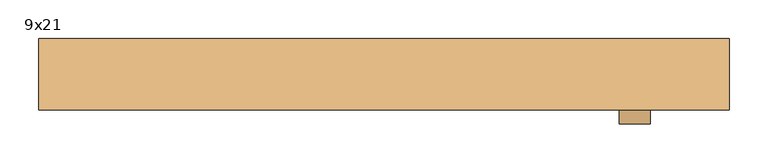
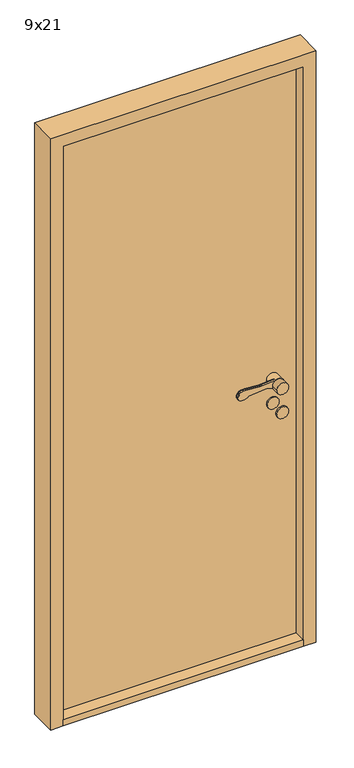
"""IFC4 building model written with IfcOpenShell, lengths in millimetres: door geometry, Innerdør stål branndørA60 : 9x21."""

from ifc_helpers import new_model, si_unit, point, frame, frame_2d, origin, origin_with_axes, place, context, project, spatial, polyline, circle_curve, trimmed, segment, composite_curve, outline, extrude, source, transform, mapped, element, save
from ifc_brep_helpers import plane_surface, cylinder_surface, revolved_surface, advanced_brep


def door_9x21_cb854033(model_context):
    return source(origin(), model_context, "Body", "SolidModel", [
        advanced_brep(
        [(343.9611305, 90.0, 949.1175955), (358.3841161, 90.0, 942.6204086), (396.379633, 90.0, 951.3474568), (367.2687793, 90.0, 969.1517356), (318.6891233, 90.0, 964.26032), (313.6202158, 90.0, 964.1804415), (268.8963175, 90.0, 967.2639242), (250.3175669, 90.0, 964.8810513), (245.505009, 90.0, 959.9624074), (241.8691983, 90.0, 951.8913379), (246.721536, 90.0, 938.7393398), (276.0476109, 90.0, 943.6260011), (338.8520664, 90.0, 949.9496913), (318.6891233, 97.1084716, 964.26032), (367.2687793, 97.1084716, 969.1517356), (356.379633, 97.1084716, 951.3474568), (358.3841161, 97.1084716, 942.6204086), (343.9611305, 97.1084716, 949.1175955), (338.8520664, 97.1084716, 949.9496913), (276.0476109, 97.1084716, 943.6260011), (246.721536, 97.1084716, 938.7393398), (241.8691983, 97.1084716, 951.8913379), (245.505009, 97.1084716, 959.9624074), (250.3175669, 97.1084716, 964.8810513), (268.8963175, 97.1084716, 967.2639242), (313.6202158, 97.1084716, 964.1804415), (396.379633, 125.0, 951.3474568), (356.379633, 125.0, 951.3474568)],
        [
            (0, 1),
            (1, 2, circle_curve(frame((376.379633, 90.0, 951.3474568), z_axis=(0.0, -1.0, 0.0), x_axis=(-1.0, 0.0, 0.0)), 20.0)),
            (2, 3, circle_curve(frame((376.379633, 90.0, 951.3474568), z_axis=(0.0, -1.0, 0.0), x_axis=(-1.0, 0.0, 0.0)), 20.0)),
            (3, 4),
            (4, 5, circle_curve(frame((315.683663, 90.0, 994.1093938), z_axis=(0.0, 1.0, 0.0), x_axis=(-0.9949691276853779, 0.0, -0.10018200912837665)), 30.0)),
            (5, 6),
            (6, 7, circle_curve(frame((263.2326797, 90.0, 937.8033877), z_axis=(0.0, -1.0, 0.0), x_axis=(-0.9949691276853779, 0.0, -0.10018200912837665)), 30.0)),
            (7, 8, circle_curve(frame((254.6226045, 90.0, 955.8551634), z_axis=(0.0, -1.0, 0.0), x_axis=(-0.9949691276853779, 0.0, -0.10018200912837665)), 10.0)),
            (8, 9),
            (9, 10, circle_curve(frame((250.9867937, 90.0, 947.7840939), z_axis=(0.0, -1.0, 0.0), x_axis=(-0.9949691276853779, 0.0, -0.10018200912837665)), 10.0)),
            (10, 11, circle_curve(frame((257.8569644, 90.0, 962.352734), z_axis=(0.0, -1.0, 0.0), x_axis=(-0.9949691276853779, 0.0, -0.10018200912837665)), 26.1072815)),
            (11, 12),
            (12, 0, circle_curve(frame((339.8538865, 90.0, 940.0), z_axis=(0.0, 1.0, 0.0), x_axis=(-0.9949691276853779, 0.0, -0.10018200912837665)), 10.0)),
            (13, 14),
            (14, 15, circle_curve(frame((376.379633, 97.1084716, 951.3474568), z_axis=(0.0, -1.0, 0.0), x_axis=(-1.0, 0.0, 0.0)), 20.0)),
            (15, 16, circle_curve(frame((376.379633, 97.1084716, 951.3474568), z_axis=(0.0, -1.0, 0.0), x_axis=(-1.0, 0.0, 0.0)), 20.0)),
            (16, 17),
            (17, 18, circle_curve(frame((339.8538865, 97.1084716, 940.0), z_axis=(0.0, -1.0, 0.0), x_axis=(-0.9949691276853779, 0.0, -0.10018200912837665)), 10.0)),
            (18, 19),
            (19, 20, circle_curve(frame((257.8569644, 97.1084716, 962.352734), z_axis=(0.0, 1.0, 0.0), x_axis=(-0.9949691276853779, 0.0, -0.10018200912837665)), 26.1072815)),
            (20, 21, circle_curve(frame((250.9867937, 97.1084716, 947.7840939), z_axis=(0.0, 1.0, 0.0), x_axis=(-0.9949691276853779, 0.0, -0.10018200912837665)), 10.0)),
            (21, 22),
            (22, 23, circle_curve(frame((254.6226045, 97.1084716, 955.8551634), z_axis=(0.0, 1.0, 0.0), x_axis=(-0.9949691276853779, 0.0, -0.10018200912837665)), 10.0)),
            (23, 24, circle_curve(frame((263.2326797, 97.1084716, 937.8033877), z_axis=(0.0, 1.0, 0.0), x_axis=(-0.9949691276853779, 0.0, -0.10018200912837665)), 30.0)),
            (24, 25),
            (25, 13, circle_curve(frame((315.683663, 97.1084716, 994.1093938), z_axis=(0.0, -1.0, 0.0), x_axis=(-0.9949691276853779, 0.0, -0.10018200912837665)), 30.0)),
            (3, 14),
            (13, 4),
            (16, 1),
            (0, 17),
            (12, 18),
            (11, 19),
            (10, 20),
            (9, 21),
            (8, 22),
            (7, 23),
            (6, 24),
            (5, 25),
            (26, 27, circle_curve(frame((376.379633, 125.0, 951.3474568), z_axis=(0.0, 1.0, 0.0), x_axis=(-1.0, 0.0, 0.0)), 20.0)),
            (27, 26, circle_curve(frame((376.379633, 125.0, 951.3474568), z_axis=(0.0, 1.0, 0.0), x_axis=(-1.0, 0.0, 0.0)), 20.0)),
            (26, 2),
            (15, 27),
        ],
        [
            plane_surface(frame((367.6960588, 90.0, 969.1947577), z_axis=(0.0, -1.0000000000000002, 0.0), x_axis=(0.9949691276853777, 0.0, 0.10018200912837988))),
            plane_surface(frame((367.6960588, 97.1084716, 969.1947577), z_axis=(0.0, 1.0000000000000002, 0.0), x_axis=(-0.9949691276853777, 0.0, -0.10018200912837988))),
            plane_surface(frame((318.6891233, 90.0, 964.26032), z_axis=(-0.10018200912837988, 0.0, 0.9949691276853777), x_axis=(0.0, 1.0, 0.0))),
            plane_surface(frame((376.9687366, 90.0, 934.2485115), z_axis=(-0.41072439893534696, 0.0, -0.91175954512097), x_axis=(0.0, 1.0, 0.0))),
            revolved_surface(polyline([(329.9041952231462, 97.1084716, 938.9981799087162), (329.9041952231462, 90.0, 938.9981799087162)]), (339.8538865, 97.1084716, 940.0), (0.0, 1.0, 0.0)),
            plane_surface(frame((338.8520664, 90.0, 949.9496913), z_axis=(0.10018200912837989, 0.0, -0.9949691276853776), x_axis=(0.0, 1.0, 0.0))),
            cylinder_surface(frame((257.8569644, 97.1084716, 962.352734), z_axis=(0.0, -1.0, 0.0), x_axis=(-0.9949691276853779, 0.0, -0.10018200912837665)), 26.1072815),
            cylinder_surface(frame((250.9867937, 97.1084716, 947.7840939), z_axis=(0.0, -1.0, 0.0), x_axis=(-0.9949691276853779, 0.0, -0.10018200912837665)), 10.0),
            plane_surface(frame((241.8691983, 90.0, 951.8913379), z_axis=(-0.9117595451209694, 0.0, 0.41072439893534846), x_axis=(0.0, 1.0, 0.0))),
            cylinder_surface(frame((254.6226045, 97.1084716, 955.8551634), z_axis=(0.0, -1.0, 0.0), x_axis=(-0.9949691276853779, 0.0, -0.10018200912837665)), 10.0),
            cylinder_surface(frame((263.2326797, 97.1084716, 937.8033877), z_axis=(0.0, -1.0, 0.0), x_axis=(-0.9949691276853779, 0.0, -0.10018200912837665)), 30.0),
            plane_surface(frame((268.8963175, 90.0, 967.2639242), z_axis=(0.06878157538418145, 0.0, 0.9976317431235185), x_axis=(0.0, 1.0, 0.0))),
            revolved_surface(polyline([(285.8345891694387, 97.1084716, 991.1039335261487), (285.8345891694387, 90.0, 991.1039335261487)]), (315.683663, 97.1084716, 994.1093938), (0.0, 1.0, 0.0)),
            plane_surface(frame((356.379633, 125.0, 951.3474568), z_axis=(0.0, 1.0, 0.0), x_axis=(0.0, 0.0, -1.0))),
            cylinder_surface(frame((376.379633, 125.0, 951.3474568), z_axis=(0.0, -1.0, 0.0), x_axis=(-1.0, 0.0, 0.0)), 20.0),
        ],
        [
            (0, [[1, 2, 3, 4, 5, 6, 7, 8, 9, 10, 11, 12, 13]]),
            (1, [[14, 15, 16, 17, 18, 19, 20, 21, 22, 23, 24, 25, 26]]),
            (2, [[-4, 27, -14, 28]]),
            (3, [[-17, 29, -1, 30]]),
            (4, [[31, -18, -30, -13]]),
            (5, [[32, -19, -31, -12]]),
            (6, [[33, -20, -32, -11]]),
            (7, [[34, -21, -33, -10]]),
            (8, [[35, -22, -34, -9]]),
            (9, [[36, -23, -35, -8]]),
            (10, [[37, -24, -36, -7]]),
            (11, [[38, -25, -37, -6]]),
            (12, [[-28, -26, -38, -5]]),
            (13, [[39, 40]]),
            (14, [[41, -2, -29, -16, 42, -39]]),
            (14, [[-42, -15, -27, -3, -41, -40]]),
        ],
    ),
        extrude(outline(composite_curve([segment(trimmed(circle_curve(frame_2d((866.3474568, 376.379633)), 20.0), [point((866.3474568, 396.379633))], [point((866.3474568, 356.379633))], False, "CARTESIAN"), True, "CONTINUOUS"), segment(trimmed(circle_curve(frame_2d((866.3474568, 376.379633)), 20.0), [point((866.3474568, 356.379633))], [point((866.3474568, 396.379633))], False, "CARTESIAN"), True, "CONTINUOUS")], self_intersect=False)), frame((0.0, 120.0, 0.0), z_axis=(0.0, 1.0, 0.0), x_axis=(0.0, 0.0, 1.0)), (0.0, 0.0, 1.0), 5.0),
        advanced_brep(
        [(343.9611305, 100.0, 949.1175955), (338.8520664, 100.0, 949.9496913), (276.0476109, 100.0, 943.6260011), (246.721536, 100.0, 938.7393398), (241.8691983, 100.0, 951.8913379), (245.505009, 100.0, 959.9624074), (250.3175669, 100.0, 964.8810513), (268.8963175, 100.0, 967.2639242), (313.6202158, 100.0, 964.1804415), (318.6891233, 100.0, 964.26032), (367.2687793, 100.0, 969.1517356), (396.379633, 100.0, 951.3474568), (358.3841161, 100.0, 942.6204086), (318.6891233, 92.8915284, 964.26032), (313.6202158, 92.8915284, 964.1804415), (268.8963175, 92.8915284, 967.2639242), (250.3175669, 92.8915284, 964.8810513), (245.505009, 92.8915284, 959.9624074), (241.8691983, 92.8915284, 951.8913379), (246.721536, 92.8915284, 938.7393398), (276.0476109, 92.8915284, 943.6260011), (338.8520664, 92.8915284, 949.9496913), (343.9611305, 92.8915284, 949.1175955), (358.3841161, 92.8915284, 942.6204086), (356.379633, 92.8915284, 951.3474568), (367.2687793, 92.8915284, 969.1517356), (396.379633, 65.0, 951.3474568), (356.379633, 65.0, 951.3474568)],
        [
            (0, 1, circle_curve(frame((339.8538865, 100.0, 940.0), z_axis=(0.0, -1.0, 0.0), x_axis=(-0.9949691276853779, 0.0, -0.10018200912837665)), 10.0)),
            (1, 2),
            (2, 3, circle_curve(frame((257.8569644, 100.0, 962.352734), z_axis=(0.0, 1.0, 0.0), x_axis=(-0.9949691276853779, 0.0, -0.10018200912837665)), 26.1072815)),
            (3, 4, circle_curve(frame((250.9867937, 100.0, 947.7840939), z_axis=(0.0, 1.0, 0.0), x_axis=(-0.9949691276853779, 0.0, -0.10018200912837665)), 10.0)),
            (4, 5),
            (5, 6, circle_curve(frame((254.6226045, 100.0, 955.8551634), z_axis=(0.0, 1.0, 0.0), x_axis=(-0.9949691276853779, 0.0, -0.10018200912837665)), 10.0)),
            (6, 7, circle_curve(frame((263.2326797, 100.0, 937.8033877), z_axis=(0.0, 1.0, 0.0), x_axis=(-0.9949691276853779, 0.0, -0.10018200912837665)), 30.0)),
            (7, 8),
            (8, 9, circle_curve(frame((315.683663, 100.0, 994.1093938), z_axis=(0.0, -1.0, 0.0), x_axis=(-0.9949691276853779, 0.0, -0.10018200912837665)), 30.0)),
            (9, 10),
            (10, 11, circle_curve(frame((376.379633, 100.0, 951.3474568), z_axis=(0.0, 1.0, 0.0), x_axis=(-1.0, 0.0, 0.0)), 20.0)),
            (11, 12, circle_curve(frame((376.379633, 100.0, 951.3474568), z_axis=(0.0, 1.0, 0.0), x_axis=(-1.0, 0.0, 0.0)), 20.0)),
            (12, 0),
            (13, 14, circle_curve(frame((315.683663, 92.8915284, 994.1093938), z_axis=(0.0, 1.0, 0.0), x_axis=(-0.9949691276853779, 0.0, -0.10018200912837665)), 30.0)),
            (14, 15),
            (15, 16, circle_curve(frame((263.2326797, 92.8915284, 937.8033877), z_axis=(0.0, -1.0, 0.0), x_axis=(-0.9949691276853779, 0.0, -0.10018200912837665)), 30.0)),
            (16, 17, circle_curve(frame((254.6226045, 92.8915284, 955.8551634), z_axis=(0.0, -1.0, 0.0), x_axis=(-0.9949691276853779, 0.0, -0.10018200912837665)), 10.0)),
            (17, 18),
            (18, 19, circle_curve(frame((250.9867937, 92.8915284, 947.7840939), z_axis=(0.0, -1.0, 0.0), x_axis=(-0.9949691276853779, 0.0, -0.10018200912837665)), 10.0)),
            (19, 20, circle_curve(frame((257.8569644, 92.8915284, 962.352734), z_axis=(0.0, -1.0, 0.0), x_axis=(-0.9949691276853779, 0.0, -0.10018200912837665)), 26.1072815)),
            (20, 21),
            (21, 22, circle_curve(frame((339.8538865, 92.8915284, 940.0), z_axis=(0.0, 1.0, 0.0), x_axis=(-0.9949691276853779, 0.0, -0.10018200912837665)), 10.0)),
            (22, 23),
            (23, 24, circle_curve(frame((376.379633, 92.8915284, 951.3474568), z_axis=(0.0, 1.0, 0.0), x_axis=(-1.0, 0.0, 0.0)), 20.0)),
            (24, 25, circle_curve(frame((376.379633, 92.8915284, 951.3474568), z_axis=(0.0, 1.0, 0.0), x_axis=(-1.0, 0.0, 0.0)), 20.0)),
            (25, 13),
            (9, 13),
            (25, 10),
            (22, 0),
            (12, 23),
            (21, 1),
            (20, 2),
            (19, 3),
            (18, 4),
            (17, 5),
            (16, 6),
            (15, 7),
            (14, 8),
            (26, 27, circle_curve(frame((376.379633, 65.0, 951.3474568), z_axis=(0.0, -1.0, 0.0), x_axis=(-1.0, 0.0, 0.0)), 20.0)),
            (27, 26, circle_curve(frame((376.379633, 65.0, 951.3474568), z_axis=(0.0, -1.0, 0.0), x_axis=(-1.0, 0.0, 0.0)), 20.0)),
            (27, 24),
            (11, 26),
        ],
        [
            plane_surface(frame((367.6960588, 100.0, 969.1947577), z_axis=(0.0, 1.0000000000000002, 0.0), x_axis=(0.9949691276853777, 0.0, 0.10018200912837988))),
            plane_surface(frame((367.6960588, 92.8915284, 969.1947577), z_axis=(0.0, -1.0000000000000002, 0.0), x_axis=(-0.9949691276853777, 0.0, -0.10018200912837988))),
            plane_surface(frame((318.6891233, 100.0, 964.26032), z_axis=(-0.10018200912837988, 0.0, 0.9949691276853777), x_axis=(0.0, -1.0, 0.0))),
            plane_surface(frame((376.9687366, 100.0, 934.2485115), z_axis=(-0.41072439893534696, 0.0, -0.91175954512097), x_axis=(0.0, -1.0, 0.0))),
            revolved_surface(polyline([(329.9041952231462, 92.8915284, 938.9981799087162), (329.9041952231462, 100.0, 938.9981799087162)]), (339.8538865, 92.8915284, 940.0), (0.0, -1.0, 0.0)),
            plane_surface(frame((338.8520664, 100.0, 949.9496913), z_axis=(0.10018200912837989, 0.0, -0.9949691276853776), x_axis=(0.0, -1.0, 0.0))),
            cylinder_surface(frame((257.8569644, 92.8915284, 962.352734), z_axis=(0.0, 1.0, 0.0), x_axis=(-0.9949691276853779, 0.0, -0.10018200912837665)), 26.1072815),
            cylinder_surface(frame((250.9867937, 92.8915284, 947.7840939), z_axis=(0.0, 1.0, 0.0), x_axis=(-0.9949691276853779, 0.0, -0.10018200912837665)), 10.0),
            plane_surface(frame((241.8691983, 100.0, 951.8913379), z_axis=(-0.9117595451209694, 0.0, 0.41072439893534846), x_axis=(0.0, -1.0, 0.0))),
            cylinder_surface(frame((254.6226045, 92.8915284, 955.8551634), z_axis=(0.0, 1.0, 0.0), x_axis=(-0.9949691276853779, 0.0, -0.10018200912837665)), 10.0),
            cylinder_surface(frame((263.2326797, 92.8915284, 937.8033877), z_axis=(0.0, 1.0, 0.0), x_axis=(-0.9949691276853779, 0.0, -0.10018200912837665)), 30.0),
            plane_surface(frame((268.8963175, 100.0, 967.2639242), z_axis=(0.06878157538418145, 0.0, 0.9976317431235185), x_axis=(0.0, -1.0, 0.0))),
            revolved_surface(polyline([(285.8345891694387, 92.8915284, 991.1039335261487), (285.8345891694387, 100.0, 991.1039335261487)]), (315.683663, 92.8915284, 994.1093938), (0.0, -1.0, 0.0)),
            plane_surface(frame((356.379633, 65.0, 951.3474568), z_axis=(0.0, -1.0, 0.0), x_axis=(0.0, 0.0, -1.0))),
            cylinder_surface(frame((376.379633, 65.0, 951.3474568), z_axis=(0.0, 1.0, 0.0), x_axis=(-1.0, 0.0, 0.0)), 20.0),
        ],
        [
            (0, [[1, 2, 3, 4, 5, 6, 7, 8, 9, 10, 11, 12, 13]]),
            (1, [[14, 15, 16, 17, 18, 19, 20, 21, 22, 23, 24, 25, 26]]),
            (2, [[27, -26, 28, -10]]),
            (3, [[29, -13, 30, -23]]),
            (4, [[-1, -29, -22, 31]]),
            (5, [[-2, -31, -21, 32]]),
            (6, [[-3, -32, -20, 33]]),
            (7, [[-4, -33, -19, 34]]),
            (8, [[-5, -34, -18, 35]]),
            (9, [[-6, -35, -17, 36]]),
            (10, [[-7, -36, -16, 37]]),
            (11, [[-8, -37, -15, 38]]),
            (12, [[-9, -38, -14, -27]]),
            (13, [[39, 40]]),
            (14, [[-40, 41, -24, -30, -12, 42]]),
            (14, [[-39, -42, -11, -28, -25, -41]]),
        ],
    ),
        extrude(outline(composite_curve([segment(trimmed(circle_curve(frame_2d((866.3474568, 376.379633)), 20.0), [point((866.3474568, 396.379633))], [point((866.3474568, 356.379633))], False, "CARTESIAN"), True, "CONTINUOUS"), segment(trimmed(circle_curve(frame_2d((866.3474568, 376.379633)), 20.0), [point((866.3474568, 356.379633))], [point((866.3474568, 396.379633))], False, "CARTESIAN"), True, "CONTINUOUS")], self_intersect=False)), frame((0.0, 65.0, 0.0), z_axis=(0.0, 1.0, 0.0), x_axis=(0.0, 0.0, 1.0)), (0.0, 0.0, 1.0), 5.0),
        extrude(outline(polyline([(456.379633, 83.0), (-349.620367, 83.0), (-349.620367, 175.0), (456.379633, 175.0), (456.379633, 83.0)])), origin_with_axes(), (0.0, 0.0, 1.0), 22.0),
        extrude(outline(polyline([(456.379633, 125.0), (-349.620367, 125.0), (-349.620367, 175.0), (456.379633, 175.0), (456.379633, 125.0)])), frame((0.0, 0.0, 22.0), z_axis=(0.0, 0.0, 1.0), x_axis=(1.0, 0.0, 0.0)), (0.0, 0.0, 1.0), 2031.0),
        extrude(outline(polyline([(0.0, -391.620367), (0.0, -349.620367), (2053.0, -349.620367), (2053.0, 456.379633), (0.0, 456.379633), (0.0, 498.379633), (2095.0, 498.379633), (2095.0, -391.620367), (0.0, -391.620367)])), frame((0.0, 83.0, 0.0), z_axis=(0.0, 1.0, 0.0), x_axis=(0.0, 0.0, 1.0)), (0.0, 0.0, 1.0), 92.0),
    ])


if __name__ == "__main__":
    model = new_model("IFC4")
    model_context = context("Model", 3, world=origin())
    ifc_project = project(units=[si_unit("LENGTHUNIT", "METRE", prefix="MILLI")], contexts=[model_context])
    site = spatial("IfcSite", under=ifc_project)
    building = spatial("IfcBuilding", under=site)
    placement = place(None, origin())
    door_9x21_shape = door_9x21_cb854033(model_context)
    element("IfcDoor", 1, ObjectType="Innerdør stål branndørA60 : 9x21", at=placement, inside=building, context=model_context, shape_type="MappedRepresentation", body=[
        mapped(door_9x21_shape, transform((0.0, 0.0, 0.0), x_axis=(1.0, 0.0, 0.0), y_axis=(0.0, 1.0, 0.0), z_axis=(0.0, 0.0, 1.0))),
    ])
    save(model, "model.ifc")
